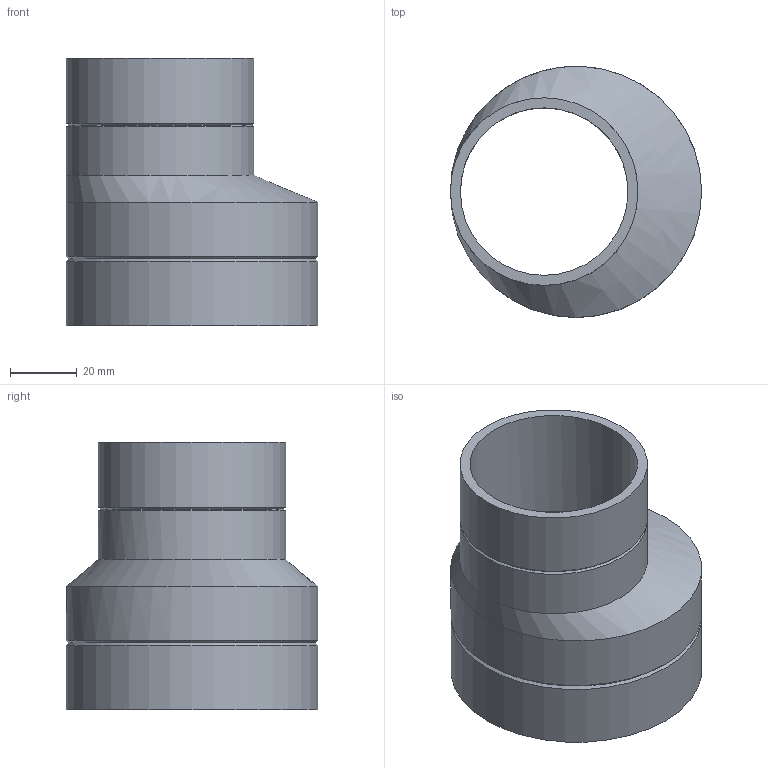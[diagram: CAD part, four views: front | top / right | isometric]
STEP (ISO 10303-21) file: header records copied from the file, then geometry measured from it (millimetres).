
FILE_DESCRIPTION(/* description */ (''),/* implementation_level */ '2;1');
FILE_NAME(/* name */ 'Z:\Geberit\Export\NewStep\365566.stp',/* time_stamp */ '2014-04-02T07:34:38+02:00',/* author */ ('nelson'),/* organization */ (''),/* preprocessor_version */ 'ST-DEVELOPER v15.2',/* originating_system */ 'Autodesk Inventor 2014',/* authorisation */ '');
FILE_SCHEMA (('AUTOMOTIVE_DESIGN { 1 0 10303 214 3 1 1 }'));
Length unit declared in the file: millimetre
Products named in the file (1): 365566
Bounding box: 75 x 75 x 80 mm (x, y, z)
Volume: 47114.2 mm3; surface area: 35023.4 mm2
Topology: 1 solids, 1 shells, 14 faces, 35 edges, 23 vertices
Faces by surface type: cylinder 6, cone 4, bspline 2, plane 2
Full cylindrical faces by diameter (mm): 50 x1, 56 x2, 69 x1, 75 x2
Entity records: 397 total; most frequent: CARTESIAN_POINT 89, DIRECTION 62, ORIENTED_EDGE 40, AXIS2_PLACEMENT_3D 31, EDGE_LOOP 26, EDGE_CURVE 20, CIRCLE 18, VERTEX_POINT 18
